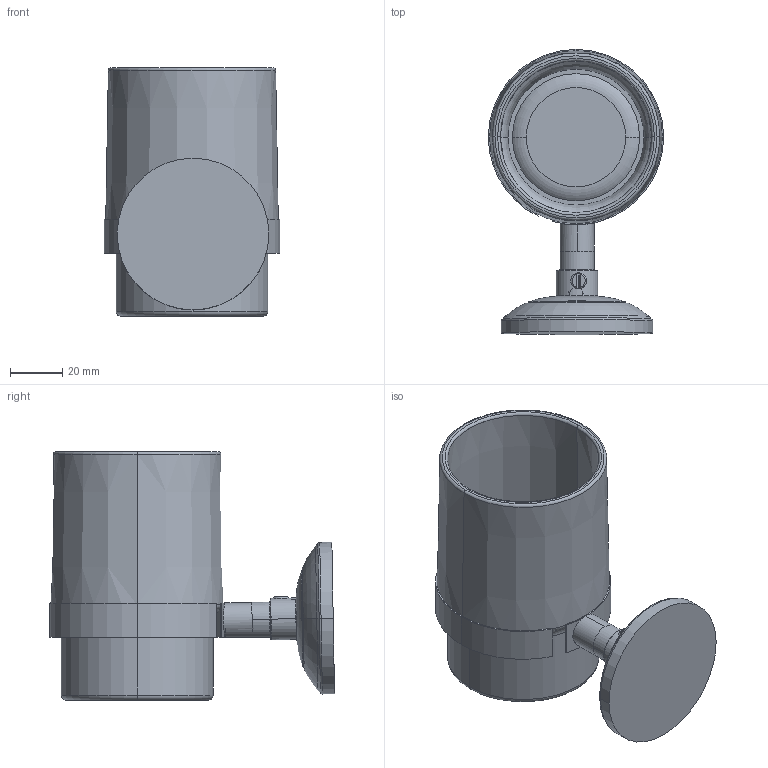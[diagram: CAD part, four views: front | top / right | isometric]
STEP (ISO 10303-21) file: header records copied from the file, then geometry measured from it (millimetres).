
FILE_DESCRIPTION (( 'STEP AP203' ), '1' );
FILE_NAME ('MA.BR20204Y .STEP', '2022-04-29T06:23:24', ( '' ), ( '' ), 'SwSTEP 2.0', 'SolidWorks 2021', '' );
FILE_SCHEMA (( 'CONFIG_CONTROL_DESIGN' ));
Length unit declared in the file: millimetre
Products named in the file (1): MA.BR20204Y 
Bounding box: 67 x 108.93 x 95 mm (x, y, z)
Volume: 95897 mm3; surface area: 55525.4 mm2
Topology: 8 solids, 8 shells, 116 faces, 230 edges, 134 vertices
Faces by surface type: torus 48, cylinder 36, plane 26, cone 6
Entity records: 3374 total; most frequent: CARTESIAN_POINT 836, DIRECTION 594, ORIENTED_EDGE 460, AXIS2_PLACEMENT_3D 271, EDGE_CURVE 230, CIRCLE 154, VERTEX_POINT 134, EDGE_LOOP 120
